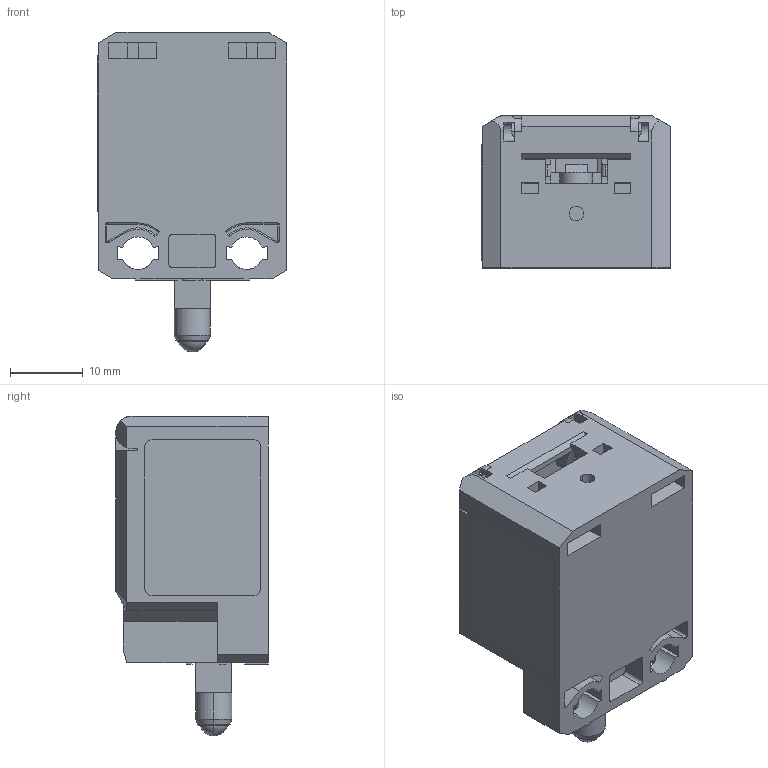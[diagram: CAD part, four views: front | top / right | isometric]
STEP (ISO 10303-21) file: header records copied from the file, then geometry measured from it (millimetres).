
FILE_DESCRIPTION((''),'2;1');
FILE_NAME('6008101007','2014-07-23T',('Yvonne.Storm'),(''),'PRO/ENGINEER BY PARAMETRIC TECHNOLOGY CORPORATION, 2012360','PRO/ENGINEER BY PARAMETRIC TECHNOLOGY CORPORATION, 2012360','');
FILE_SCHEMA(('AUTOMOTIVE_DESIGN { 1 0 10303 214 1 1 1 1 }'));
Products named in the file (1): 6008101007
Bounding box: 26.1 x 21 x 44.1 mm (x, y, z)
Volume: 9773 mm3; surface area: 14113.3 mm2
Topology: 2 solids, 2 shells, 1437 faces, 4024 edges, 2528 vertices
Faces by surface type: plane 1012, cylinder 292, torus 52, bspline 34, cone 29, sphere 18
Entity records: 94757 total; most frequent: CARTESIAN_POINT 33785, ORIENTED_EDGE 8004, DIRECTION 7325, PRESENTATION_STYLE_ASSIGNMENT 5344, STYLED_ITEM 4078, CURVE_STYLE 4002, EDGE_CURVE 4002, VECTOR 3001
